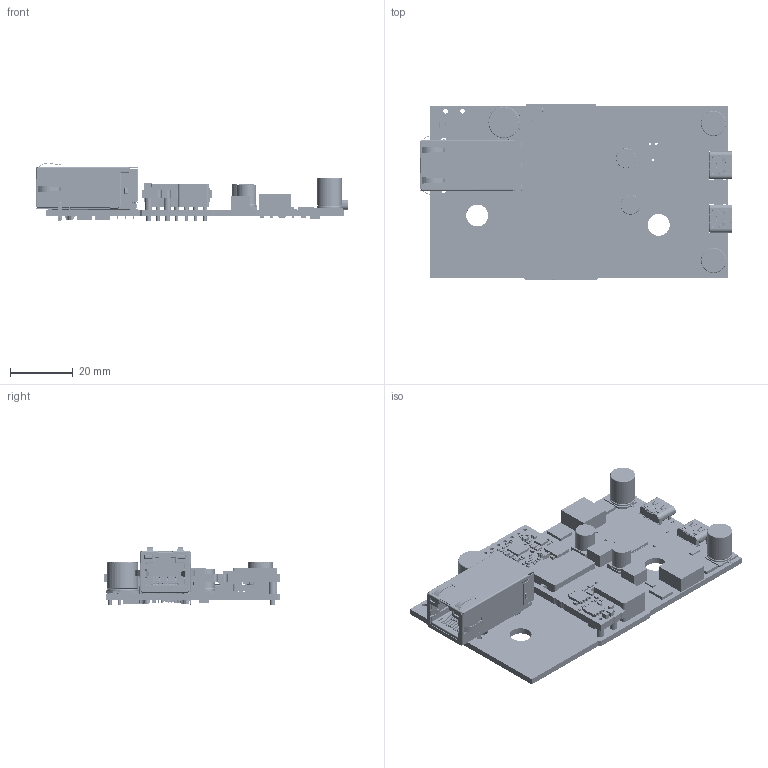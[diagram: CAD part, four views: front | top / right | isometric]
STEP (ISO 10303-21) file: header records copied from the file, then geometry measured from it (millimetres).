
FILE_DESCRIPTION(/* description */ (''),/* implementation_level */ '2;1');
FILE_NAME(/* name */ 'CG-CCG7DPOE_Model3D_JWV1.step',/* time_stamp */ '2023-10-09T14:54:47-04:00',/* author */ (''),/* organization */ (''),/* preprocessor_version */ 'ST-DEVELOPER v19.2',/* originating_system */ 'Autodesk Translation Framework v12.6.0.85',/* authorisation */ '');
FILE_SCHEMA (('AUTOMOTIVE_DESIGN { 1 0 10303 214 3 1 1 }'));
Products named in the file (247): (Unsaved); BoardCG-CCG7DPOE; Open CASCADE STEP translator 7.5 2.1.1; R15CG-CCG7DPOE; RESC2012X50N EIA 0805; C44CG-CCG7DPOE; U1CG-CCG7DPOE; User Library-QFN68(8x8mm); J3CG-CCG7DPOE; YKKU-1309BNL; 11F_ASM_332_ASM; 11F_ASSY_LAYOUT_WLED_ASM_66_ASM; 11F_ASSY_SHIELD_WLED_ASM_23_ASM; 11F_ASST_LIGHTPIPE_WLED_ASM_15_ASM; 11F_ASSY_LED_WLED_ASM_25_AF0_ASM; 11F_ASSY_LED_HOLDER_WLED_AS_AF0_ASM; 11F_ASSY_HOSING_WLED_ASM_16_AF0_ASM; 11F_HOUSING_169_AF0; 1NF_ASSY_RJ_INSERT_WLED_ASM_AF0_ASM; 1NF_ASSY_OUTPUT_PCBA_WLED_A_AF0_ASM; 1NF_MODULE_ASM_19_AF0_ASM; 1NF_BOBBIN_ASM_19_AF0_ASM; 1NF_BOBBIN_BASE_130_AF0; CP_1_WPOE_16_AF0_ASM; CP_1_WPOE_16_1_AF0; CP_1_WPOE_16_2_AF0; CP_1_WPOE_16_3_AF0; CP_1_WPOE_16_4_AF0; CP_1_WPOE_16_5_AF0; CP_1_WPOE_16_6_AF0; CP_1_WPOE_16_7_AF0; CP_1_WPOE_16_8_AF0; CP_1_WPOE_16_9_AF0; CP_1_WPOE_16_10_AF0; CP_1_WPOE_16_11_AF0; CP_1_WPOE_16_12_AF0; CP_1_WPOE_16_13_AF0; CP_1_WPOE_16_14_AF0; CP_1_WPOE_16_15_AF0; CP_1_WPOE_16_16_AF0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
Assembly tree (274 placements, depth 16):
  (Unsaved)
    BoardCG-CCG7DPOE
      Open CASCADE STEP translator 7.5 2.1.1
    R15CG-CCG7DPOE
      RESC2012X50N EIA 0805
    C44CG-CCG7DPOE
      User Library-cap_0805_lowprofile
    U1CG-CCG7DPOE
      User Library-QFN68(8x8mm)
    J3CG-CCG7DPOE
      YKKU-1309BNL
        11F_ASM_332_ASM
          11F_ASSY_LAYOUT_WLED_ASM_66_ASM
            11F_ASSY_SHIELD_WLED_ASM_23_ASM
              11F_ASST_LIGHTPIPE_WLED_ASM_15_ASM
                11F_ASSY_LED_WLED_ASM_25_AF0_ASM
                  11F_ASSY_LED_HOLDER_WLED_AS_AF0_ASM
                  1NF_LED_R_13
                  1NF_LED_L_10
                1NF_LIGHTPIPE_9_AF0
              11F_SHIELD_WLED_FOLD_61_ASM
                11F_SHIELD_WLED_FOLD_61_1
              11F_PIN_HOLDE_WLED_50
    U2CG-CCG7DPOE
      MYBSP01206AZFT_step
    D6CG-CCG7DPOE
      CD-HD2006L
        Body
        Pins
    D5CG-CCG7DPOE
      CD-HD2006L
        Body
        Pins
    C45CG-CCG7DPOE
      User Library-ALU-G
        User Library-ALU-G_Pins_1
        User Library-ALU-G_Fuss_1
        User Library-ALU-G_K_X_F6rper_1
        User Library-ALU-G_Beschriftung_1
    R14ACG-CCG7DPOE
    R12BCG-CCG7DPOE
      User Library-res1206-1
    R12ACG-CCG7DPOE
    R10BCG-CCG7DPOE
    R10ACG-CCG7DPOE
    R13BCG-CCG7DPOE
    R13ACG-CCG7DPOE
      User Library-res1206-1
    R11BCG-CCG7DPOE
    R11ACG-CCG7DPOE
      User Library-res1206-1
    Q2BCG-CCG7DPOE
      User Library-TDFN-8-EP_3x3mm
      User Library-TDFN-8-EP_3x3mm (1)
      User Library-TDFN-8-EP_3x3mm (2)
      User Library-TDFN-8-EP_3x3mm (3)
      User Library-TDFN-8-EP_3x3mm (4)
      User Library-TDFN-8-EP_3x3mm (5)
      User Library-TDFN-8-EP_3x3mm (6)
    Q2ACG-CCG7DPOE
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Bounding box: 99.92 x 56.4 x 18.67 mm (x, y, z)
Volume: 22040.6 mm3; surface area: 33527.7 mm2
Topology: 376 solids, 392 shells, 9978 faces, 25709 edges, 16470 vertices
Faces by surface type: plane 7125, cylinder 2018, bspline 370, torus 218, sphere 137, cone 110
Full cylindrical faces by diameter (mm): 0.1 x2, 0.18 x66, 0.34 x4, 0.4 x1, 0.45 x28, 0.455 x2, 0.5 x20, 0.65 x32, 0.692 x4, 0.888 x3, 0.9 x20, 0.95 x46, 1 x8, 1.02 x22, 1.1 x4, 1.15 x10, 1.2 x2, 1.32 x8, 1.5 x10, 1.57 x10, 1.6 x2, 1.78 x2, 2 x2, 2.032 x6, 2.36 x2, 3.25 x2, 3.5 x2, 5.7 x2, 6.3 x4, 6.4 x2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
Entity records: 250825 total; most frequent: CARTESIAN_POINT 55528, ORIENTED_EDGE 38567, DIRECTION 38446, EDGE_CURVE 19285, LINE 14884, VECTOR 14884, VERTEX_POINT 12374, AXIS2_PLACEMENT_3D 11781
